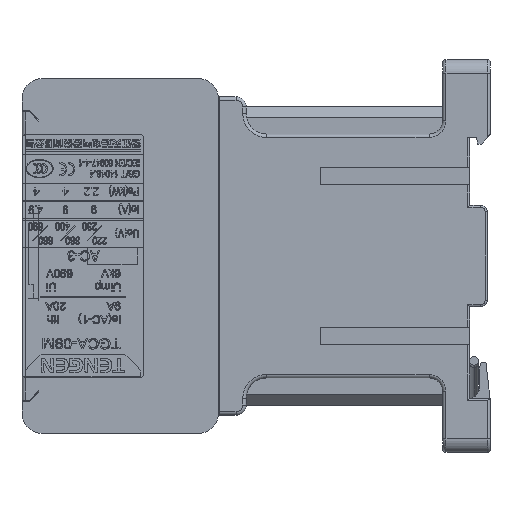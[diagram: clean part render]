
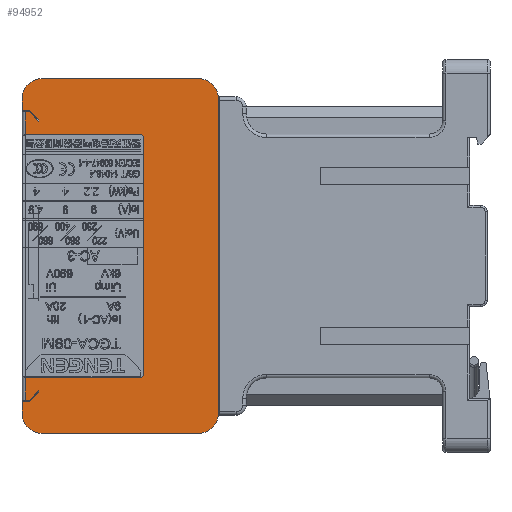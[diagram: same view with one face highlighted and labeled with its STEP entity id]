
A CAD part, left-side view. The second image highlights one B-rep face of the part: STEP entity #94952.
In plain terms, the highlighted planar face has unit normal (-1, 0, 0).
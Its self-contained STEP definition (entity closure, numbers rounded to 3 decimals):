
#738=DIRECTION('',(0.,0.,1.));
#739=VECTOR('',#738,34.5);
#740=CARTESIAN_POINT('',(-22.5,11.1,-17.25));
#741=LINE('',#740,#739);
#742=CARTESIAN_POINT('',(-22.5,11.85,17.25));
#743=DIRECTION('',(-1.,0.,0.));
#744=DIRECTION('',(0.,-1.,0.));
#745=AXIS2_PLACEMENT_3D('',#742,#743,#744);
#747=DIRECTION('',(0.,1.,0.));
#748=VECTOR('',#747,16.5);
#749=CARTESIAN_POINT('',(-22.5,11.85,18.));
#750=LINE('',#749,#748);
#751=CARTESIAN_POINT('',(-22.5,28.35,17.25));
#752=DIRECTION('',(-1.,0.,0.));
#753=DIRECTION('',(0.,0.,1.));
#754=AXIS2_PLACEMENT_3D('',#751,#752,#753);
#756=DIRECTION('',(0.,0.,-1.));
#757=VECTOR('',#756,3.343);
#758=CARTESIAN_POINT('',(-22.5,28.6,21.3));
#759=LINE('',#758,#757);
#760=DIRECTION('',(0.,-1.,0.));
#761=VECTOR('',#760,0.6);
#762=CARTESIAN_POINT('',(-22.5,28.6,21.3));
#763=LINE('',#762,#761);
#764=DIRECTION('',(0.,0.707,0.707));
#765=VECTOR('',#764,1.98);
#766=CARTESIAN_POINT('',(-22.5,26.6,19.9));
#767=LINE('',#766,#765);
#768=DIRECTION('',(0.,1.,0.));
#769=VECTOR('',#768,1.1);
#770=CARTESIAN_POINT('',(-22.5,28.,21.5));
#771=LINE('',#770,#769);
#772=CARTESIAN_POINT('',(-22.5,26.1,23.2));
#773=DIRECTION('',(-1.,0.,0.));
#774=DIRECTION('',(0.,0.,1.));
#775=AXIS2_PLACEMENT_3D('',#772,#773,#774);
#777=CARTESIAN_POINT('',(-22.5,3.1,23.2));
#778=DIRECTION('',(-1.,0.,0.));
#779=DIRECTION('',(0.,-1.,0.));
#780=AXIS2_PLACEMENT_3D('',#777,#778,#779);
#782=CARTESIAN_POINT('',(-22.5,3.1,-23.2));
#783=DIRECTION('',(-1.,0.,0.));
#784=DIRECTION('',(0.,0.,-1.));
#785=AXIS2_PLACEMENT_3D('',#782,#783,#784);
#787=DIRECTION('',(0.,1.,0.));
#788=VECTOR('',#787,23.);
#789=CARTESIAN_POINT('',(-22.5,3.1,-26.2));
#790=LINE('',#789,#788);
#791=CARTESIAN_POINT('',(-22.5,26.1,-23.2));
#792=DIRECTION('',(-1.,0.,0.));
#793=DIRECTION('',(0.,1.,0.));
#794=AXIS2_PLACEMENT_3D('',#791,#792,#793);
#796=DIRECTION('',(0.,-0.707,0.707));
#797=VECTOR('',#796,1.98);
#798=CARTESIAN_POINT('',(-22.5,28.,-21.3));
#799=LINE('',#798,#797);
#800=DIRECTION('',(0.,0.,-1.));
#801=VECTOR('',#800,3.343);
#802=CARTESIAN_POINT('',(-22.5,28.6,-17.957));
#803=LINE('',#802,#801);
#804=CARTESIAN_POINT('',(-22.5,28.35,-17.25));
#805=DIRECTION('',(-1.,0.,0.));
#806=DIRECTION('',(0.,0.333,-0.943));
#807=AXIS2_PLACEMENT_3D('',#804,#805,#806);
#809=DIRECTION('',(0.,-1.,0.));
#810=VECTOR('',#809,16.5);
#811=CARTESIAN_POINT('',(-22.5,28.35,-18.));
#812=LINE('',#811,#810);
#813=CARTESIAN_POINT('',(-22.5,11.85,-17.25));
#814=DIRECTION('',(-1.,0.,0.));
#815=DIRECTION('',(0.,0.,-1.));
#816=AXIS2_PLACEMENT_3D('',#813,#814,#815);
#9240=DIRECTION('',(0.,-1.,0.));
#9241=VECTOR('',#9240,0.6);
#9242=CARTESIAN_POINT('',(-22.5,28.6,-21.3));
#9243=LINE('',#9242,#9241);
#9441=DIRECTION('',(0.,0.,-1.));
#9442=VECTOR('',#9441,0.2);
#9443=CARTESIAN_POINT('',(-22.5,26.6,-19.9));
#9444=LINE('',#9443,#9442);
#9457=DIRECTION('',(0.,0.707,-0.707));
#9458=VECTOR('',#9457,1.98);
#9459=CARTESIAN_POINT('',(-22.5,26.6,-20.1));
#9460=LINE('',#9459,#9458);
#9653=DIRECTION('',(0.,0.,1.));
#9654=VECTOR('',#9653,46.4);
#9655=CARTESIAN_POINT('',(-22.5,0.1,-23.2));
#9656=LINE('',#9655,#9654);
#9749=DIRECTION('',(0.,0.,1.));
#9750=VECTOR('',#9749,1.7);
#9751=CARTESIAN_POINT('',(-22.5,29.1,-23.2));
#9752=LINE('',#9751,#9750);
#9757=DIRECTION('',(0.,1.,0.));
#9758=VECTOR('',#9757,1.1);
#9759=CARTESIAN_POINT('',(-22.5,28.,-21.5));
#9760=LINE('',#9759,#9758);
#9765=DIRECTION('',(0.,1.,0.));
#9766=VECTOR('',#9765,23.);
#9767=CARTESIAN_POINT('',(-22.5,3.1,26.2));
#9768=LINE('',#9767,#9766);
#9793=DIRECTION('',(0.,0.,1.));
#9794=VECTOR('',#9793,1.7);
#9795=CARTESIAN_POINT('',(-22.5,29.1,21.5));
#9796=LINE('',#9795,#9794);
#9817=DIRECTION('',(0.,-0.707,-0.707));
#9818=VECTOR('',#9817,1.98);
#9819=CARTESIAN_POINT('',(-22.5,28.,21.5));
#9820=LINE('',#9819,#9818);
#9833=DIRECTION('',(0.,0.,-1.));
#9834=VECTOR('',#9833,0.2);
#9835=CARTESIAN_POINT('',(-22.5,26.6,20.1));
#9836=LINE('',#9835,#9834);
#82422=CARTESIAN_POINT('',(-22.5,29.1,-21.5));
#82424=VERTEX_POINT('',#82422);
#82431=CARTESIAN_POINT('',(-22.5,29.1,21.5));
#82433=VERTEX_POINT('',#82431);
#82438=CARTESIAN_POINT('',(-22.5,26.1,26.2));
#82439=VERTEX_POINT('',#82438);
#82440=CARTESIAN_POINT('',(-22.5,29.1,23.2));
#82441=VERTEX_POINT('',#82440);
#82450=CARTESIAN_POINT('',(-22.5,29.1,-23.2));
#82451=CARTESIAN_POINT('',(-22.5,26.1,-26.2));
#82452=VERTEX_POINT('',#82450);
#82453=VERTEX_POINT('',#82451);
#82466=CARTESIAN_POINT('',(-22.5,26.6,-20.1));
#82467=CARTESIAN_POINT('',(-22.5,28.,-21.5));
#82468=VERTEX_POINT('',#82466);
#82469=VERTEX_POINT('',#82467);
#82470=CARTESIAN_POINT('',(-22.5,28.,21.5));
#82471=CARTESIAN_POINT('',(-22.5,26.6,20.1));
#82472=VERTEX_POINT('',#82470);
#82473=VERTEX_POINT('',#82471);
#82654=CARTESIAN_POINT('',(-22.5,3.1,-26.2));
#82655=CARTESIAN_POINT('',(-22.5,0.1,-23.2));
#82656=VERTEX_POINT('',#82654);
#82657=VERTEX_POINT('',#82655);
#82682=CARTESIAN_POINT('',(-22.5,0.1,23.2));
#82683=VERTEX_POINT('',#82682);
#82684=CARTESIAN_POINT('',(-22.5,3.1,26.2));
#82685=VERTEX_POINT('',#82684);
#86130=CARTESIAN_POINT('',(-22.5,28.,-21.3));
#86132=VERTEX_POINT('',#86130);
#86135=CARTESIAN_POINT('',(-22.5,28.,21.3));
#86137=VERTEX_POINT('',#86135);
#86258=CARTESIAN_POINT('',(-22.5,28.6,-21.3));
#86260=VERTEX_POINT('',#86258);
#86264=CARTESIAN_POINT('',(-22.5,28.6,21.3));
#86265=VERTEX_POINT('',#86264);
#87174=CARTESIAN_POINT('',(-22.5,26.6,-19.9));
#87176=VERTEX_POINT('',#87174);
#87178=CARTESIAN_POINT('',(-22.5,26.6,19.9));
#87180=VERTEX_POINT('',#87178);
#94424=CARTESIAN_POINT('',(-22.5,11.1,-17.25));
#94425=CARTESIAN_POINT('',(-22.5,11.1,17.25));
#94426=VERTEX_POINT('',#94424);
#94427=VERTEX_POINT('',#94425);
#94428=CARTESIAN_POINT('',(-22.5,11.85,18.));
#94429=CARTESIAN_POINT('',(-22.5,28.35,18.));
#94430=VERTEX_POINT('',#94428);
#94431=VERTEX_POINT('',#94429);
#94432=CARTESIAN_POINT('',(-22.5,28.35,-18.));
#94433=CARTESIAN_POINT('',(-22.5,11.85,-18.));
#94434=VERTEX_POINT('',#94432);
#94435=VERTEX_POINT('',#94433);
#94436=CARTESIAN_POINT('',(-22.5,28.6,17.957));
#94437=VERTEX_POINT('',#94436);
#94438=CARTESIAN_POINT('',(-22.5,28.6,-17.957));
#94439=VERTEX_POINT('',#94438);
#94890=CARTESIAN_POINT('',(-22.5,28.1,-26.2));
#94891=DIRECTION('',(-1.,0.,0.));
#94892=DIRECTION('',(0.,-1.,0.));
#94893=AXIS2_PLACEMENT_3D('',#94890,#94891,#94892);
#94894=PLANE('',#94893);
#94895=ORIENTED_EDGE('',*,*,#94852,.T.);
#94897=ORIENTED_EDGE('',*,*,#94896,.T.);
#94899=ORIENTED_EDGE('',*,*,#94898,.T.);
#94901=ORIENTED_EDGE('',*,*,#94900,.T.);
#94903=ORIENTED_EDGE('',*,*,#94902,.F.);
#94905=ORIENTED_EDGE('',*,*,#94904,.T.);
#94907=ORIENTED_EDGE('',*,*,#94906,.F.);
#94909=ORIENTED_EDGE('',*,*,#94908,.F.);
#94911=ORIENTED_EDGE('',*,*,#94910,.F.);
#94913=ORIENTED_EDGE('',*,*,#94912,.T.);
#94915=ORIENTED_EDGE('',*,*,#94914,.T.);
#94917=ORIENTED_EDGE('',*,*,#94916,.F.);
#94919=ORIENTED_EDGE('',*,*,#94918,.F.);
#94921=ORIENTED_EDGE('',*,*,#94920,.F.);
#94923=ORIENTED_EDGE('',*,*,#94922,.F.);
#94925=ORIENTED_EDGE('',*,*,#94924,.F.);
#94927=ORIENTED_EDGE('',*,*,#94926,.T.);
#94929=ORIENTED_EDGE('',*,*,#94928,.F.);
#94931=ORIENTED_EDGE('',*,*,#94930,.T.);
#94933=ORIENTED_EDGE('',*,*,#94932,.F.);
#94935=ORIENTED_EDGE('',*,*,#94934,.F.);
#94937=ORIENTED_EDGE('',*,*,#94936,.F.);
#94939=ORIENTED_EDGE('',*,*,#94938,.F.);
#94941=ORIENTED_EDGE('',*,*,#94940,.F.);
#94943=ORIENTED_EDGE('',*,*,#94942,.F.);
#94945=ORIENTED_EDGE('',*,*,#94944,.T.);
#94947=ORIENTED_EDGE('',*,*,#94946,.T.);
#94949=ORIENTED_EDGE('',*,*,#94948,.T.);
#94950=EDGE_LOOP('',(#94895,#94897,#94899,#94901,#94903,#94905,#94907,#94909,
#94911,#94913,#94915,#94917,#94919,#94921,#94923,#94925,#94927,#94929,#94931,
#94933,#94935,#94937,#94939,#94941,#94943,#94945,#94947,#94949));
#94951=FACE_OUTER_BOUND('',#94950,.F.);
#94952=ADVANCED_FACE('',(#94951),#94894,.T.);
#746=CIRCLE('',#745,0.75);
#755=CIRCLE('',#754,0.75);
#776=CIRCLE('',#775,3.);
#781=CIRCLE('',#780,3.);
#786=CIRCLE('',#785,3.);
#795=CIRCLE('',#794,3.);
#808=CIRCLE('',#807,0.75);
#817=CIRCLE('',#816,0.75);
#94852=EDGE_CURVE('',#94426,#94427,#741,.T.);
#94896=EDGE_CURVE('',#94427,#94430,#746,.T.);
#94898=EDGE_CURVE('',#94430,#94431,#750,.T.);
#94900=EDGE_CURVE('',#94431,#94437,#755,.T.);
#94902=EDGE_CURVE('',#86265,#94437,#759,.T.);
#94904=EDGE_CURVE('',#86265,#86137,#763,.T.);
#94906=EDGE_CURVE('',#87180,#86137,#767,.T.);
#94908=EDGE_CURVE('',#82473,#87180,#9836,.T.);
#94910=EDGE_CURVE('',#82472,#82473,#9820,.T.);
#94912=EDGE_CURVE('',#82472,#82433,#771,.T.);
#94914=EDGE_CURVE('',#82433,#82441,#9796,.T.);
#94916=EDGE_CURVE('',#82439,#82441,#776,.T.);
#94918=EDGE_CURVE('',#82685,#82439,#9768,.T.);
#94920=EDGE_CURVE('',#82683,#82685,#781,.T.);
#94922=EDGE_CURVE('',#82657,#82683,#9656,.T.);
#94924=EDGE_CURVE('',#82656,#82657,#786,.T.);
#94926=EDGE_CURVE('',#82656,#82453,#790,.T.);
#94928=EDGE_CURVE('',#82452,#82453,#795,.T.);
#94930=EDGE_CURVE('',#82452,#82424,#9752,.T.);
#94932=EDGE_CURVE('',#82469,#82424,#9760,.T.);
#94934=EDGE_CURVE('',#82468,#82469,#9460,.T.);
#94936=EDGE_CURVE('',#87176,#82468,#9444,.T.);
#94938=EDGE_CURVE('',#86132,#87176,#799,.T.);
#94940=EDGE_CURVE('',#86260,#86132,#9243,.T.);
#94942=EDGE_CURVE('',#94439,#86260,#803,.T.);
#94944=EDGE_CURVE('',#94439,#94434,#808,.T.);
#94946=EDGE_CURVE('',#94434,#94435,#812,.T.);
#94948=EDGE_CURVE('',#94435,#94426,#817,.T.);
